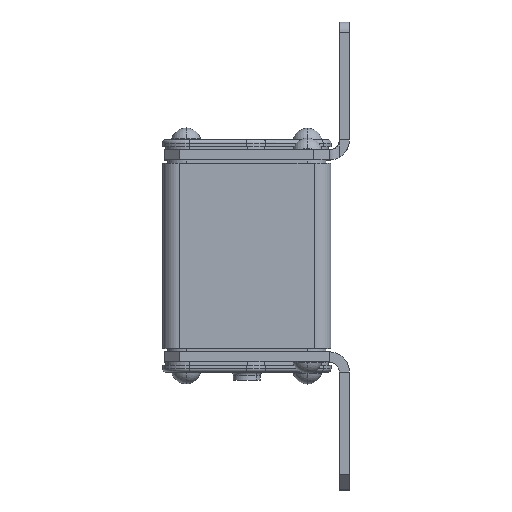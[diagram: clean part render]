
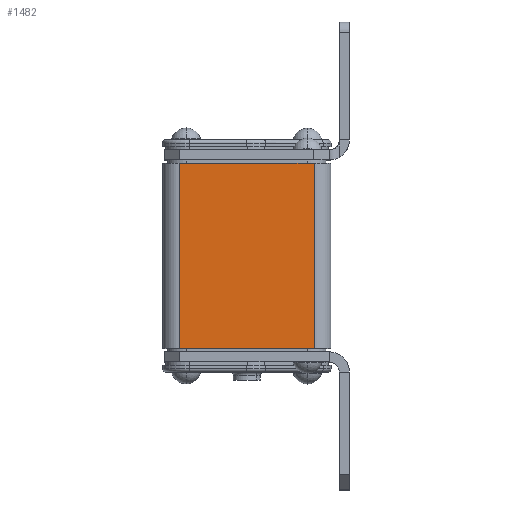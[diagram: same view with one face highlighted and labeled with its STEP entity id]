
A CAD part, top view. The second image highlights one B-rep face of the part: STEP entity #1482.
In plain terms, the highlighted planar face has unit normal (0, 0, 1).
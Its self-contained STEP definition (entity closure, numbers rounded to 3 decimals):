
#21 = EDGE_CURVE ( 'NONE', #7196, #2376, #14734, .T. ) ;
#324 = CARTESIAN_POINT ( 'NONE',  ( -20., 27.5, 25. ) ) ;
#340 = VERTEX_POINT ( 'NONE', #324 ) ;
#536 = DIRECTION ( 'NONE',  ( 0., -1., 0. ) ) ;
#1482 = ADVANCED_FACE ( 'NONE', ( #7023 ), #10093, .F. ) ;
#2376 = VERTEX_POINT ( 'NONE', #9830 ) ;
#2494 = LINE ( 'NONE', #4559, #6366 ) ;
#2598 = DIRECTION ( 'NONE',  ( 1., 0., 0. ) ) ;
#3072 = EDGE_CURVE ( 'NONE', #15207, #2376, #14994, .T. ) ;
#3545 = VECTOR ( 'NONE', #536, 1000. ) ;
#3555 = CARTESIAN_POINT ( 'NONE',  ( 20., 27.5, 25. ) ) ;
#4559 = CARTESIAN_POINT ( 'NONE',  ( -20., 27.5, 25. ) ) ;
#5185 = LINE ( 'NONE', #13697, #3545 ) ;
#6366 = VECTOR ( 'NONE', #9838, 1000. ) ;
#6465 = CARTESIAN_POINT ( 'NONE',  ( -20., -27.5, 25. ) ) ;
#7023 = FACE_OUTER_BOUND ( 'NONE', #8648, .T. ) ;
#7196 = VERTEX_POINT ( 'NONE', #13616 ) ;
#7364 = ORIENTED_EDGE ( 'NONE', *, *, #3072, .T. ) ;
#8144 = EDGE_CURVE ( 'NONE', #340, #7196, #2494, .T. ) ;
#8201 = ORIENTED_EDGE ( 'NONE', *, *, #21, .F. ) ;
#8648 = EDGE_LOOP ( 'NONE', ( #7364, #8201, #13271, #8912 ) ) ;
#8912 = ORIENTED_EDGE ( 'NONE', *, *, #12267, .T. ) ;
#9135 = VECTOR ( 'NONE', #12880, 1000. ) ;
#9830 = CARTESIAN_POINT ( 'NONE',  ( 20., -27.5, 25. ) ) ;
#9838 = DIRECTION ( 'NONE',  ( 1., 0., 0. ) ) ;
#10093 = PLANE ( 'NONE',  #12256 ) ;
#10796 = VECTOR ( 'NONE', #2598, 1000. ) ;
#12256 = AXIS2_PLACEMENT_3D ( 'NONE', #13587, #16602, #13914 ) ;
#12267 = EDGE_CURVE ( 'NONE', #340, #15207, #5185, .T. ) ;
#12880 = DIRECTION ( 'NONE',  ( 0., -1., 0. ) ) ;
#13271 = ORIENTED_EDGE ( 'NONE', *, *, #8144, .F. ) ;
#13587 = CARTESIAN_POINT ( 'NONE',  ( -20., 27.5, 25. ) ) ;
#13616 = CARTESIAN_POINT ( 'NONE',  ( 20., 27.5, 25. ) ) ;
#13697 = CARTESIAN_POINT ( 'NONE',  ( -20., 27.5, 25. ) ) ;
#13914 = DIRECTION ( 'NONE',  ( -1., 0., 0. ) ) ;
#14734 = LINE ( 'NONE', #3555, #9135 ) ;
#14994 = LINE ( 'NONE', #15424, #10796 ) ;
#15207 = VERTEX_POINT ( 'NONE', #6465 ) ;
#15424 = CARTESIAN_POINT ( 'NONE',  ( -20., -27.5, 25. ) ) ;
#16602 = DIRECTION ( 'NONE',  ( 0., 0., -1. ) ) ;
